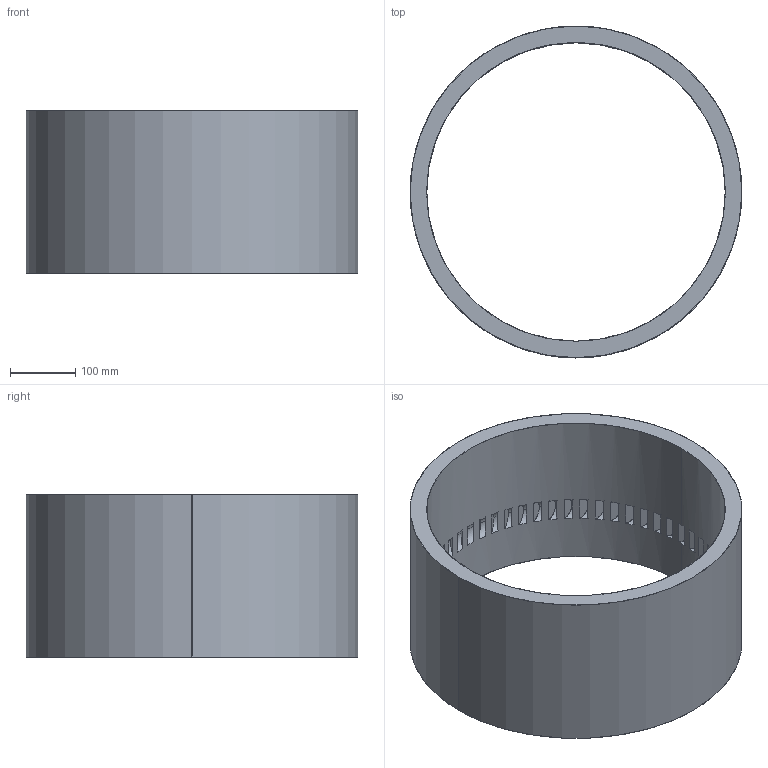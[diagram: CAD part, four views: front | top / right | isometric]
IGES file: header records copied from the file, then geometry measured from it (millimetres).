
Start section: SolidWorks IGES file using analytic representation for surfaces
Global section: file name: C:\Users\Turbo1\Desktop\casing treat -full circle.IGS; native system: SolidWorks 2014; preprocessor: SolidWorks 2014; author: Turbo1; date: 150611.111124; units: inch
Bounding box: 508 x 508 x 249.94 mm (x, y, z)
Surface area: 901206.7 mm2 (no closed solid volume)
Topology: 0 solids, 0 shells, 246 faces, 4964 edges, 4964 vertices
Faces by surface type: bspline 242, revolution 4
